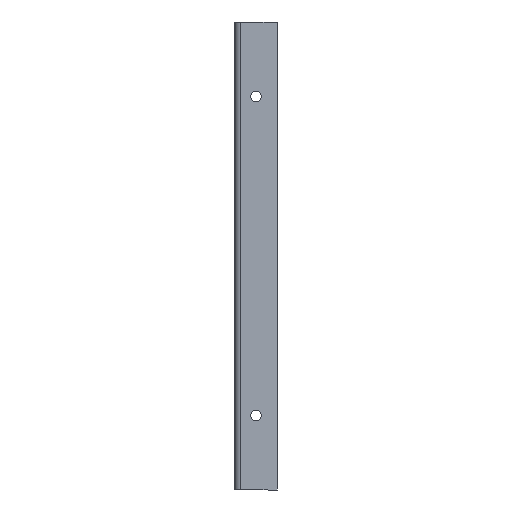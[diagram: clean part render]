
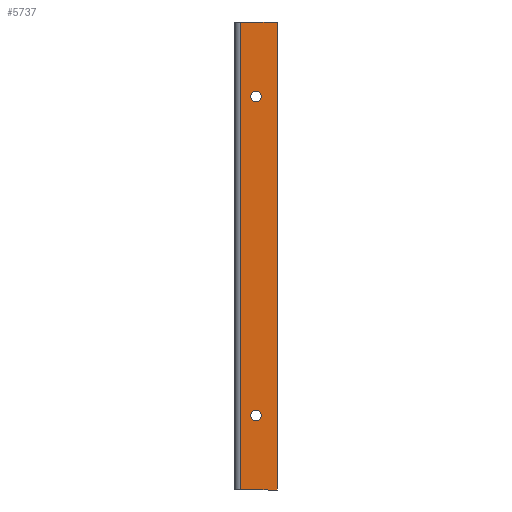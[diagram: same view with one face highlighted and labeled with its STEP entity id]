
A CAD part, front view. The second image highlights one B-rep face of the part: STEP entity #5737.
In plain terms, the highlighted planar face has unit normal (0, -1, 0).
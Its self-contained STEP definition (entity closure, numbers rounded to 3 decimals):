
#59 = VECTOR ( 'NONE', #1410, 1000. ) ;
#63 = CARTESIAN_POINT ( 'NONE',  ( 120., -2., 100. ) ) ;
#64 = VERTEX_POINT ( 'NONE', #4615 ) ;
#123 = ORIENTED_EDGE ( 'NONE', *, *, #5670, .F. ) ;
#135 = DIRECTION ( 'NONE',  ( -1., 0., 0. ) ) ;
#194 = VERTEX_POINT ( 'NONE', #788 ) ;
#510 = DIRECTION ( 'NONE',  ( 0., 0., -1. ) ) ;
#569 = EDGE_LOOP ( 'NONE', ( #3904, #1933 ) ) ;
#694 = ORIENTED_EDGE ( 'NONE', *, *, #2650, .F. ) ;
#733 = LINE ( 'NONE', #1701, #4277 ) ;
#735 = DIRECTION ( 'NONE',  ( 0., -1., 0. ) ) ;
#746 = DIRECTION ( 'NONE',  ( 0., 0., -1. ) ) ;
#773 = DIRECTION ( 'NONE',  ( 0., 0., -1. ) ) ;
#786 = DIRECTION ( 'NONE',  ( 0., -1., 0. ) ) ;
#788 = CARTESIAN_POINT ( 'NONE',  ( 102.736, -2., 100. ) ) ;
#799 = CARTESIAN_POINT ( 'NONE',  ( 110., -2., -85. ) ) ;
#815 = VERTEX_POINT ( 'NONE', #2847 ) ;
#908 = CARTESIAN_POINT ( 'NONE',  ( 110., -2., -87.5 ) ) ;
#1043 = FACE_BOUND ( 'NONE', #1240, .T. ) ;
#1044 = CARTESIAN_POINT ( 'NONE',  ( 120., -2., 100. ) ) ;
#1240 = EDGE_LOOP ( 'NONE', ( #4363, #4929 ) ) ;
#1410 = DIRECTION ( 'NONE',  ( 1., 0., 0. ) ) ;
#1431 = CARTESIAN_POINT ( 'NONE',  ( 120., -2., 100. ) ) ;
#1435 = EDGE_LOOP ( 'NONE', ( #123, #3472, #1472, #694 ) ) ;
#1454 = CARTESIAN_POINT ( 'NONE',  ( 120., -2., 100. ) ) ;
#1472 = ORIENTED_EDGE ( 'NONE', *, *, #1899, .F. ) ;
#1605 = EDGE_CURVE ( 'NONE', #4473, #2419, #4415, .T. ) ;
#1629 = VECTOR ( 'NONE', #510, 1000. ) ;
#1701 = CARTESIAN_POINT ( 'NONE',  ( 120., -2., -120. ) ) ;
#1763 = CARTESIAN_POINT ( 'NONE',  ( 110., -2., 67.5 ) ) ;
#1793 = FACE_OUTER_BOUND ( 'NONE', #1435, .T. ) ;
#1840 = EDGE_CURVE ( 'NONE', #2419, #4473, #2127, .T. ) ;
#1862 = EDGE_CURVE ( 'NONE', #815, #4552, #2966, .T. ) ;
#1899 = EDGE_CURVE ( 'NONE', #5647, #64, #733, .T. ) ;
#1933 = ORIENTED_EDGE ( 'NONE', *, *, #1840, .F. ) ;
#2042 = AXIS2_PLACEMENT_3D ( 'NONE', #3428, #2520, #746 ) ;
#2066 = DIRECTION ( 'NONE',  ( -1., 0., 0. ) ) ;
#2127 = CIRCLE ( 'NONE', #2042, 2.5 ) ;
#2419 = VERTEX_POINT ( 'NONE', #4397 ) ;
#2512 = CARTESIAN_POINT ( 'NONE',  ( 110., -2., 65. ) ) ;
#2520 = DIRECTION ( 'NONE',  ( 0., -1., 0. ) ) ;
#2650 = EDGE_CURVE ( 'NONE', #2838, #5647, #2809, .T. ) ;
#2803 = CARTESIAN_POINT ( 'NONE',  ( 120., -2., -120. ) ) ;
#2809 = LINE ( 'NONE', #63, #1629 ) ;
#2838 = VERTEX_POINT ( 'NONE', #1044 ) ;
#2847 = CARTESIAN_POINT ( 'NONE',  ( 110., -2., -82.5 ) ) ;
#2943 = AXIS2_PLACEMENT_3D ( 'NONE', #799, #786, #4299 ) ;
#2966 = CIRCLE ( 'NONE', #2943, 2.5 ) ;
#3017 = CARTESIAN_POINT ( 'NONE',  ( 102.736, -2., 100. ) ) ;
#3077 = AXIS2_PLACEMENT_3D ( 'NONE', #2512, #735, #5634 ) ;
#3085 = EDGE_CURVE ( 'NONE', #194, #64, #4825, .T. ) ;
#3422 = DIRECTION ( 'NONE',  ( 0., -1., 0. ) ) ;
#3428 = CARTESIAN_POINT ( 'NONE',  ( 110., -2., 65. ) ) ;
#3472 = ORIENTED_EDGE ( 'NONE', *, *, #3085, .T. ) ;
#3745 = LINE ( 'NONE', #1431, #59 ) ;
#3904 = ORIENTED_EDGE ( 'NONE', *, *, #1605, .F. ) ;
#4088 = PLANE ( 'NONE',  #4509 ) ;
#4277 = VECTOR ( 'NONE', #2066, 1000. ) ;
#4299 = DIRECTION ( 'NONE',  ( 0., 0., -1. ) ) ;
#4363 = ORIENTED_EDGE ( 'NONE', *, *, #1862, .F. ) ;
#4397 = CARTESIAN_POINT ( 'NONE',  ( 110., -2., 62.5 ) ) ;
#4415 = CIRCLE ( 'NONE', #3077, 2.5 ) ;
#4473 = VERTEX_POINT ( 'NONE', #1763 ) ;
#4509 = AXIS2_PLACEMENT_3D ( 'NONE', #1454, #4557, #135 ) ;
#4539 = VECTOR ( 'NONE', #773, 1000. ) ;
#4552 = VERTEX_POINT ( 'NONE', #908 ) ;
#4557 = DIRECTION ( 'NONE',  ( 0., -1., 0. ) ) ;
#4615 = CARTESIAN_POINT ( 'NONE',  ( 102.736, -2., -120. ) ) ;
#4825 = LINE ( 'NONE', #3017, #4539 ) ;
#4855 = FACE_BOUND ( 'NONE', #569, .T. ) ;
#4929 = ORIENTED_EDGE ( 'NONE', *, *, #5392, .F. ) ;
#5216 = DIRECTION ( 'NONE',  ( 0., 0., -1. ) ) ;
#5222 = CIRCLE ( 'NONE', #5662, 2.5 ) ;
#5392 = EDGE_CURVE ( 'NONE', #4552, #815, #5222, .T. ) ;
#5588 = CARTESIAN_POINT ( 'NONE',  ( 110., -2., -85. ) ) ;
#5634 = DIRECTION ( 'NONE',  ( 0., 0., -1. ) ) ;
#5647 = VERTEX_POINT ( 'NONE', #2803 ) ;
#5662 = AXIS2_PLACEMENT_3D ( 'NONE', #5588, #3422, #5216 ) ;
#5670 = EDGE_CURVE ( 'NONE', #194, #2838, #3745, .T. ) ;
#5737 = ADVANCED_FACE ( 'NONE', ( #1043, #4855, #1793 ), #4088, .T. ) ;
